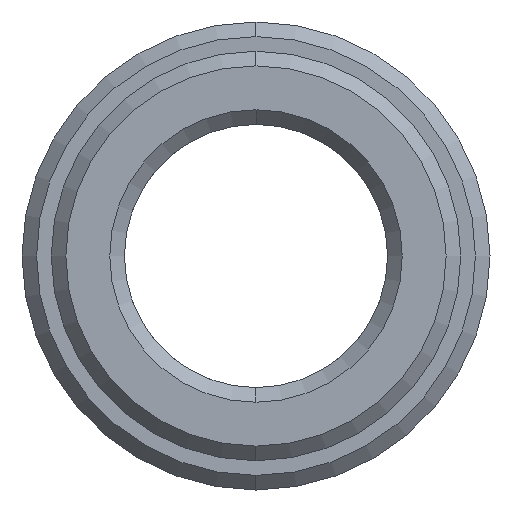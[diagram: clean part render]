
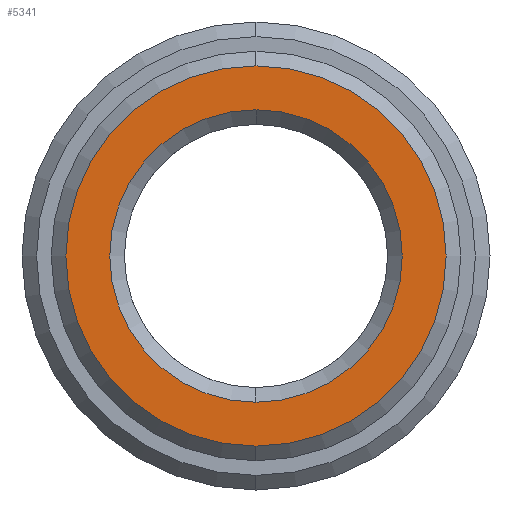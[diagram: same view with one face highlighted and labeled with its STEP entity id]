
A CAD part, left-side view. The second image highlights one B-rep face of the part: STEP entity #5341.
In plain terms, the highlighted planar face has unit normal (-1, 0, 0).
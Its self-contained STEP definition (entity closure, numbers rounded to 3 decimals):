
#3212=CARTESIAN_POINT('',(-5.,0.,0.));
#3213=DIRECTION('',(1.,0.,0.));
#3214=DIRECTION('',(0.,0.,1.));
#3215=AXIS2_PLACEMENT_3D('',#3212,#3213,#3214);
#3217=CARTESIAN_POINT('',(-5.,0.,0.));
#3218=DIRECTION('',(1.,0.,0.));
#3219=DIRECTION('',(0.,0.,-1.));
#3220=AXIS2_PLACEMENT_3D('',#3217,#3218,#3219);
#3222=CARTESIAN_POINT('',(-5.,0.,0.));
#3223=DIRECTION('',(1.,0.,0.));
#3224=DIRECTION('',(0.,0.,1.));
#3225=AXIS2_PLACEMENT_3D('',#3222,#3223,#3224);
#3227=CARTESIAN_POINT('',(-5.,0.,0.));
#3228=DIRECTION('',(1.,0.,0.));
#3229=DIRECTION('',(0.,0.,-1.));
#3230=AXIS2_PLACEMENT_3D('',#3227,#3228,#3229);
#3498=CARTESIAN_POINT('',(-5.,0.,5.));
#3499=CARTESIAN_POINT('',(-5.,0.,-5.));
#3500=VERTEX_POINT('',#3498);
#3501=VERTEX_POINT('',#3499);
#3506=CARTESIAN_POINT('',(-5.,0.,6.5));
#3507=CARTESIAN_POINT('',(-5.,0.,-6.5));
#3508=VERTEX_POINT('',#3506);
#3509=VERTEX_POINT('',#3507);
#5326=CARTESIAN_POINT('',(-5.,0.,0.));
#5327=DIRECTION('',(1.,0.,0.));
#5328=DIRECTION('',(0.,0.,1.));
#5329=AXIS2_PLACEMENT_3D('',#5326,#5327,#5328);
#5330=PLANE('',#5329);
#5331=ORIENTED_EDGE('',*,*,#5293,.T.);
#5332=ORIENTED_EDGE('',*,*,#5308,.T.);
#5333=EDGE_LOOP('',(#5331,#5332));
#5334=FACE_OUTER_BOUND('',#5333,.F.);
#5336=ORIENTED_EDGE('',*,*,#5335,.F.);
#5338=ORIENTED_EDGE('',*,*,#5337,.F.);
#5339=EDGE_LOOP('',(#5336,#5338));
#5340=FACE_BOUND('',#5339,.F.);
#5341=ADVANCED_FACE('',(#5334,#5340),#5330,.F.);
#3216=CIRCLE('',#3215,6.5);
#3221=CIRCLE('',#3220,6.5);
#3226=CIRCLE('',#3225,5.);
#3231=CIRCLE('',#3230,5.);
#5293=EDGE_CURVE('',#3508,#3509,#3216,.T.);
#5308=EDGE_CURVE('',#3509,#3508,#3221,.T.);
#5335=EDGE_CURVE('',#3500,#3501,#3226,.T.);
#5337=EDGE_CURVE('',#3501,#3500,#3231,.T.);
